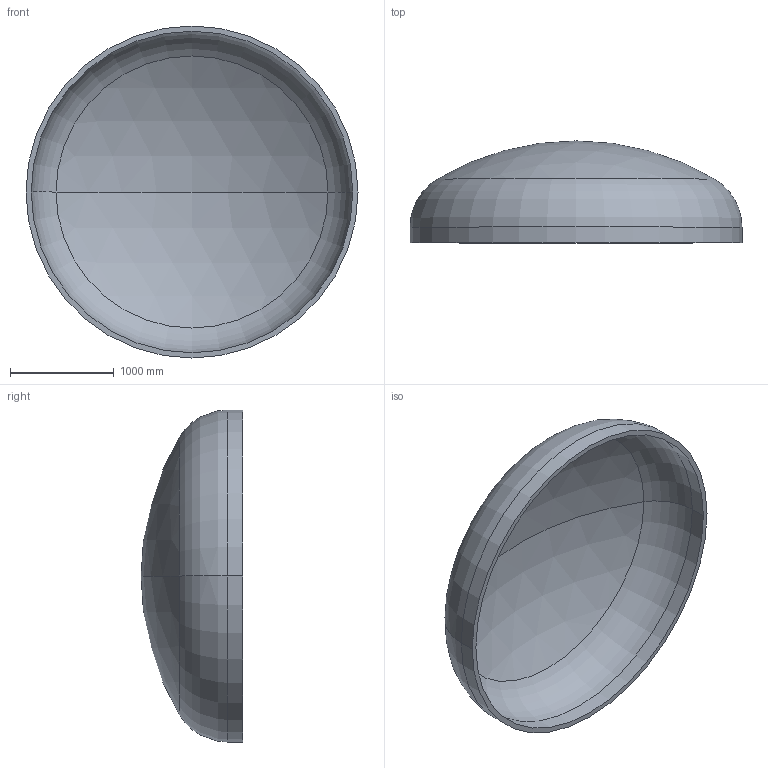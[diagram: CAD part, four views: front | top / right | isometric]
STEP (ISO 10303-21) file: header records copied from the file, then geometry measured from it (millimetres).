
FILE_DESCRIPTION (( 'STEP AP203' ), '1' );
FILE_NAME ('DIN 28013 Korbbogenform_-_Boden DIN 28013 - 3200 x 150 - I - s=50.step', '2016-07-01T18:42:38', ( '' ), ( '' ), 'SwSTEP 2.0', 'SolidWorks 2013', '' );
FILE_SCHEMA (( 'CONFIG_CONTROL_DESIGN' ));
Length unit declared in the file: millimetre
Products named in the file (1): DIN 28013 Korbbogenform_-_Boden DIN 28013 - 3200 x 150 - I - s=50
Bounding box: 3200 x 982 x 3200 mm (x, y, z)
Volume: 619173218.5 mm3; surface area: 25266957.1 mm2
Topology: 1 solids, 1 shells, 13 faces, 24 edges, 14 vertices
Faces by surface type: torus 4, cylinder 4, sphere 4, plane 1
Entity records: 407 total; most frequent: DIRECTION 72, CARTESIAN_POINT 52, ORIENTED_EDGE 48, AXIS2_PLACEMENT_3D 34, EDGE_CURVE 24, CIRCLE 20, VERTEX_POINT 14, EDGE_LOOP 14
